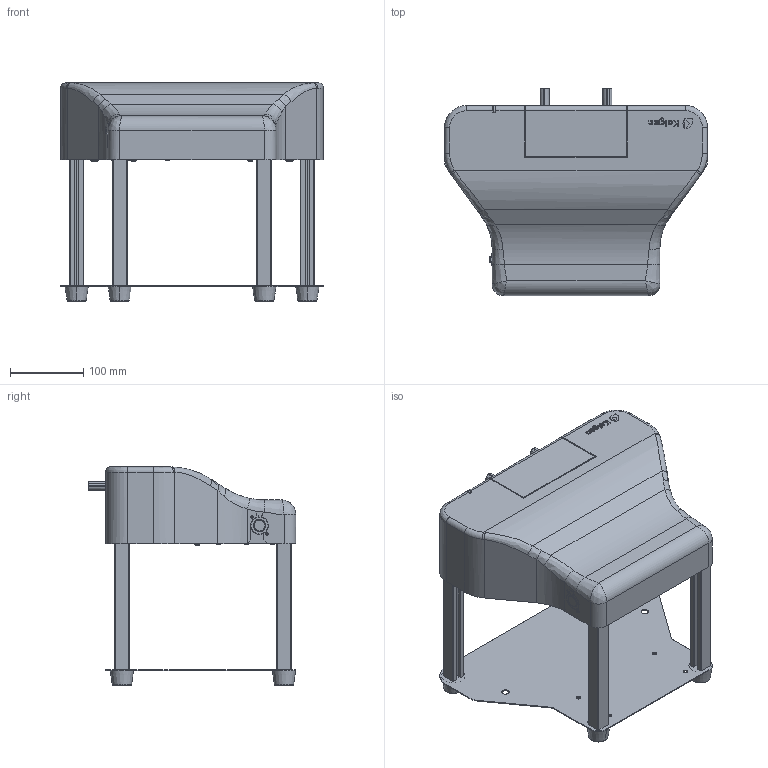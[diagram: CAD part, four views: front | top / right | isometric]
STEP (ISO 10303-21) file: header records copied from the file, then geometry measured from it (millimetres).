
FILE_DESCRIPTION (( 'STEP AP203' ), '1' );
FILE_NAME ('充電ステーション.STEP', '2023-12-05T02:53:09', ( '' ), ( '' ), 'SwSTEP 2.0', 'SolidWorks 2019', '' );
FILE_SCHEMA (( 'CONFIG_CONTROL_DESIGN' ));
Length unit declared in the file: millimetre
Products named in the file (2): 充電ステーション
Bounding box: 360 x 284 x 299.4 mm (x, y, z)
Volume: 6409866.2 mm3; surface area: 635745.2 mm2
Topology: 1 solids, 1 shells, 1052 faces, 2958 edges, 1951 vertices
Faces by surface type: plane 585, cylinder 253, bspline 144, cone 63, torus 7
Entity records: 42000 total; most frequent: CARTESIAN_POINT 16985, ORIENTED_EDGE 5904, DIRECTION 4161, EDGE_CURVE 2952, VERTEX_POINT 1951, LINE 1503, VECTOR 1503, AXIS2_PLACEMENT_3D 1329
